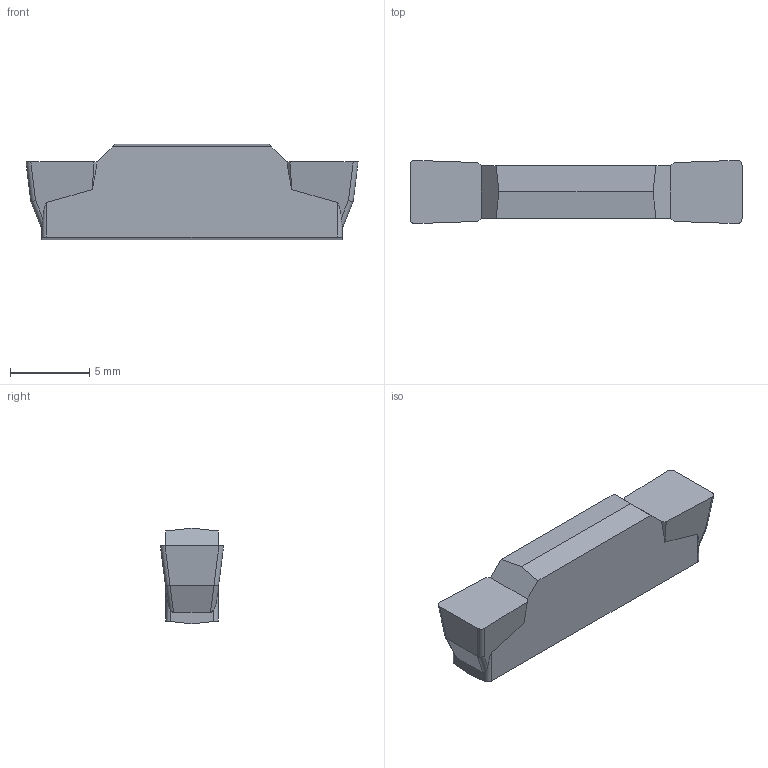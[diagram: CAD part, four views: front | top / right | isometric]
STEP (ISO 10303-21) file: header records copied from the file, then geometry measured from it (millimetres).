
FILE_DESCRIPTION (( 'STEP AP203' ), '1' );
FILE_NAME ('02-0491_HGMN_400_G.STEP', '2022-09-30T14:21:17', ( '' ), ( '' ), 'SwSTEP 2.0', 'SolidWorks 2021', '' );
FILE_SCHEMA (( 'CONFIG_CONTROL_DESIGN' ));
Length unit declared in the file: millimetre
Products named in the file (1): 02-0491_HGMN_400_G
Bounding box: 21 x 4 x 6.04 mm (x, y, z)
Volume: 363.4 mm3; surface area: 385.1 mm2
Topology: 1 solids, 1 shells, 38 faces, 104 edges, 68 vertices
Faces by surface type: plane 24, cylinder 14
Entity records: 1298 total; most frequent: CARTESIAN_POINT 348, ORIENTED_EDGE 208, DIRECTION 150, EDGE_CURVE 104, VECTOR 72, LINE 72, VERTEX_POINT 68, AXIS2_PLACEMENT_3D 39
